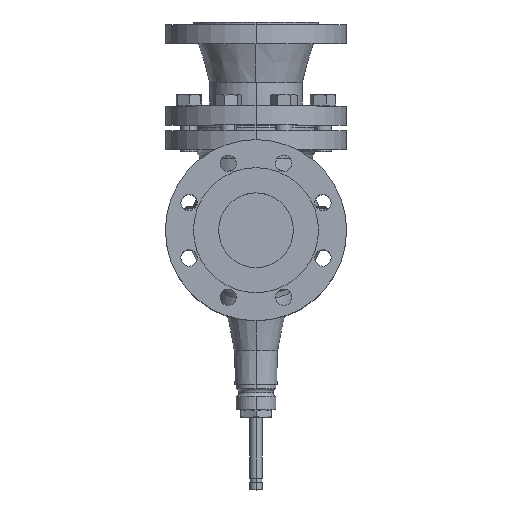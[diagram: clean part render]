
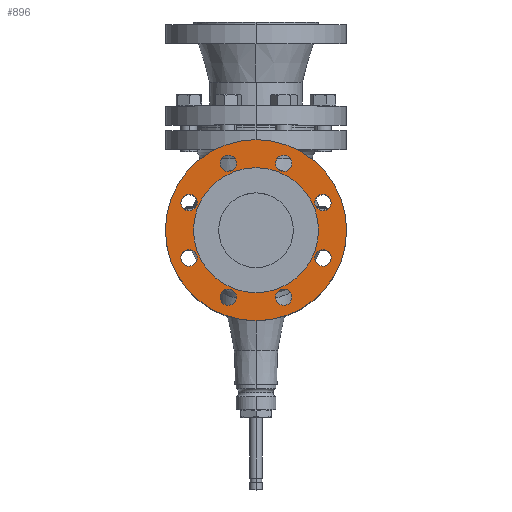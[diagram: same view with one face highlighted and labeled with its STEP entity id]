
A CAD part, top view. The second image highlights one B-rep face of the part: STEP entity #896.
In plain terms, the highlighted planar face has unit normal (0, 0, 1).
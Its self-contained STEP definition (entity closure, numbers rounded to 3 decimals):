
#72=CARTESIAN_POINT('',(0.,-100.,307.));
#73=VERTEX_POINT('',#72);
#89=CARTESIAN_POINT('',(0.,100.,307.));
#90=VERTEX_POINT('',#89);
#97=CARTESIAN_POINT('',(0.,0.,307.));
#98=DIRECTION('',(0.0,0.0,1.0));
#99=DIRECTION('',(0.0,-1.0,0.0));
#100=AXIS2_PLACEMENT_3D('',#97,#98,#99);
#101=CIRCLE('',#100,100.0);
#102=EDGE_CURVE('',#73,#90,#101,.T.);
#112=CARTESIAN_POINT('',(-34.059,-82.225,307.));
#113=VERTEX_POINT('',#112);
#122=CARTESIAN_POINT('',(-27.171,-65.595,307.));
#123=VERTEX_POINT('',#122);
#124=CARTESIAN_POINT('',(-30.615,-73.91,307.));
#125=DIRECTION('',(0.,0.,-1.));
#126=DIRECTION('',(-0.383,-0.924,0.));
#127=AXIS2_PLACEMENT_3D('',#124,#125,#126);
#128=CIRCLE('',#127,9.0);
#129=EDGE_CURVE('',#123,#113,#128,.T.);
#154=CARTESIAN_POINT('',(-82.225,-34.059,307.));
#155=VERTEX_POINT('',#154);
#164=CARTESIAN_POINT('',(-65.595,-27.171,307.));
#165=VERTEX_POINT('',#164);
#166=CARTESIAN_POINT('',(-73.91,-30.615,307.));
#167=DIRECTION('',(0.,0.,-1.));
#168=DIRECTION('',(-0.924,-0.383,0.));
#169=AXIS2_PLACEMENT_3D('',#166,#167,#168);
#170=CIRCLE('',#169,9.);
#171=EDGE_CURVE('',#165,#155,#170,.T.);
#196=CARTESIAN_POINT('',(-82.225,34.059,307.));
#197=VERTEX_POINT('',#196);
#206=CARTESIAN_POINT('',(-65.595,27.171,307.));
#207=VERTEX_POINT('',#206);
#208=CARTESIAN_POINT('',(-73.91,30.615,307.));
#209=DIRECTION('',(0.,0.,-1.));
#210=DIRECTION('',(-0.924,0.383,0.));
#211=AXIS2_PLACEMENT_3D('',#208,#209,#210);
#212=CIRCLE('',#211,9.0);
#213=EDGE_CURVE('',#207,#197,#212,.T.);
#238=CARTESIAN_POINT('',(-34.059,82.225,307.));
#239=VERTEX_POINT('',#238);
#248=CARTESIAN_POINT('',(-27.171,65.595,307.));
#249=VERTEX_POINT('',#248);
#250=CARTESIAN_POINT('',(-30.615,73.91,307.));
#251=DIRECTION('',(0.,0.,-1.0));
#252=DIRECTION('',(-0.383,0.924,0.));
#253=AXIS2_PLACEMENT_3D('',#250,#251,#252);
#254=CIRCLE('',#253,9.0);
#255=EDGE_CURVE('',#249,#239,#254,.T.);
#280=CARTESIAN_POINT('',(34.059,82.225,307.));
#281=VERTEX_POINT('',#280);
#290=CARTESIAN_POINT('',(27.171,65.595,307.));
#291=VERTEX_POINT('',#290);
#292=CARTESIAN_POINT('',(30.615,73.91,307.));
#293=DIRECTION('',(0.,0.,-1.));
#294=DIRECTION('',(0.383,0.924,0.));
#295=AXIS2_PLACEMENT_3D('',#292,#293,#294);
#296=CIRCLE('',#295,9.);
#297=EDGE_CURVE('',#291,#281,#296,.T.);
#322=CARTESIAN_POINT('',(82.225,34.059,307.));
#323=VERTEX_POINT('',#322);
#332=CARTESIAN_POINT('',(65.595,27.171,307.));
#333=VERTEX_POINT('',#332);
#334=CARTESIAN_POINT('',(73.91,30.615,307.));
#335=DIRECTION('',(0.,0.,-1.));
#336=DIRECTION('',(0.924,0.383,0.));
#337=AXIS2_PLACEMENT_3D('',#334,#335,#336);
#338=CIRCLE('',#337,9.);
#339=EDGE_CURVE('',#333,#323,#338,.T.);
#364=CARTESIAN_POINT('',(82.225,-34.059,307.));
#365=VERTEX_POINT('',#364);
#374=CARTESIAN_POINT('',(65.595,-27.171,307.));
#375=VERTEX_POINT('',#374);
#376=CARTESIAN_POINT('',(73.91,-30.615,307.));
#377=DIRECTION('',(0.,0.,-1.0));
#378=DIRECTION('',(0.924,-0.383,0.));
#379=AXIS2_PLACEMENT_3D('',#376,#377,#378);
#380=CIRCLE('',#379,9.);
#381=EDGE_CURVE('',#375,#365,#380,.T.);
#406=CARTESIAN_POINT('',(34.059,-82.225,307.));
#407=VERTEX_POINT('',#406);
#416=CARTESIAN_POINT('',(27.171,-65.595,307.));
#417=VERTEX_POINT('',#416);
#418=CARTESIAN_POINT('',(30.615,-73.91,307.));
#419=DIRECTION('',(0.,0.,-1.0));
#420=DIRECTION('',(0.383,-0.924,0.));
#421=AXIS2_PLACEMENT_3D('',#418,#419,#420);
#422=CIRCLE('',#421,9.0);
#423=EDGE_CURVE('',#417,#407,#422,.T.);
#448=CARTESIAN_POINT('',(0.,-69.,307.));
#449=VERTEX_POINT('',#448);
#458=CARTESIAN_POINT('',(0.,69.,307.));
#459=VERTEX_POINT('',#458);
#460=CARTESIAN_POINT('',(0.,0.,307.));
#461=DIRECTION('',(0.0,0.0,-1.0));
#462=DIRECTION('',(0.0,-1.0,0.0));
#463=AXIS2_PLACEMENT_3D('',#460,#461,#462);
#464=CIRCLE('',#463,69.0);
#465=EDGE_CURVE('',#459,#449,#464,.T.);
#565=CARTESIAN_POINT('',(0.,0.,307.));
#566=DIRECTION('',(0.0,0.0,-1.0));
#567=DIRECTION('',(0.0,-1.0,0.0));
#568=AXIS2_PLACEMENT_3D('',#565,#566,#567);
#569=CIRCLE('',#568,69.0);
#570=EDGE_CURVE('',#449,#459,#569,.T.);
#603=CARTESIAN_POINT('',(30.615,-73.91,307.));
#604=DIRECTION('',(0.,0.,-1.0));
#605=DIRECTION('',(0.383,-0.924,0.));
#606=AXIS2_PLACEMENT_3D('',#603,#604,#605);
#607=CIRCLE('',#606,9.0);
#608=EDGE_CURVE('',#407,#417,#607,.T.);
#627=CARTESIAN_POINT('',(73.91,-30.615,307.));
#628=DIRECTION('',(0.,0.,-1.0));
#629=DIRECTION('',(0.924,-0.383,0.));
#630=AXIS2_PLACEMENT_3D('',#627,#628,#629);
#631=CIRCLE('',#630,9.);
#632=EDGE_CURVE('',#365,#375,#631,.T.);
#651=CARTESIAN_POINT('',(73.91,30.615,307.));
#652=DIRECTION('',(0.,0.,-1.));
#653=DIRECTION('',(0.924,0.383,0.));
#654=AXIS2_PLACEMENT_3D('',#651,#652,#653);
#655=CIRCLE('',#654,9.);
#656=EDGE_CURVE('',#323,#333,#655,.T.);
#675=CARTESIAN_POINT('',(30.615,73.91,307.));
#676=DIRECTION('',(0.,0.,-1.));
#677=DIRECTION('',(0.383,0.924,0.));
#678=AXIS2_PLACEMENT_3D('',#675,#676,#677);
#679=CIRCLE('',#678,9.);
#680=EDGE_CURVE('',#281,#291,#679,.T.);
#699=CARTESIAN_POINT('',(-30.615,73.91,307.));
#700=DIRECTION('',(0.,0.,-1.0));
#701=DIRECTION('',(-0.383,0.924,0.));
#702=AXIS2_PLACEMENT_3D('',#699,#700,#701);
#703=CIRCLE('',#702,9.0);
#704=EDGE_CURVE('',#239,#249,#703,.T.);
#723=CARTESIAN_POINT('',(-73.91,30.615,307.));
#724=DIRECTION('',(0.,0.,-1.));
#725=DIRECTION('',(-0.924,0.383,0.));
#726=AXIS2_PLACEMENT_3D('',#723,#724,#725);
#727=CIRCLE('',#726,9.0);
#728=EDGE_CURVE('',#197,#207,#727,.T.);
#747=CARTESIAN_POINT('',(-73.91,-30.615,307.));
#748=DIRECTION('',(0.,0.,-1.));
#749=DIRECTION('',(-0.924,-0.383,0.));
#750=AXIS2_PLACEMENT_3D('',#747,#748,#749);
#751=CIRCLE('',#750,9.);
#752=EDGE_CURVE('',#155,#165,#751,.T.);
#771=CARTESIAN_POINT('',(-30.615,-73.91,307.));
#772=DIRECTION('',(0.,0.,-1.));
#773=DIRECTION('',(-0.383,-0.924,0.));
#774=AXIS2_PLACEMENT_3D('',#771,#772,#773);
#775=CIRCLE('',#774,9.0);
#776=EDGE_CURVE('',#113,#123,#775,.T.);
#787=CARTESIAN_POINT('',(0.,0.,307.));
#788=DIRECTION('',(0.0,0.0,1.0));
#789=DIRECTION('',(0.0,-1.0,0.0));
#790=AXIS2_PLACEMENT_3D('',#787,#788,#789);
#791=CIRCLE('',#790,100.0);
#792=EDGE_CURVE('',#90,#73,#791,.T.);
#851=CARTESIAN_POINT('',(0.,0.,307.));
#852=DIRECTION('',(0.0,0.0,1.0));
#853=DIRECTION('',(0.0,-1.0,0.0));
#854=AXIS2_PLACEMENT_3D('',#851,#852,#853);
#855=PLANE('',#854);
#856=ORIENTED_EDGE('',*,*,#102,.T.);
#857=ORIENTED_EDGE('',*,*,#792,.T.);
#858=EDGE_LOOP('',(#856,#857));
#859=FACE_OUTER_BOUND('',#858,.T.);
#860=ORIENTED_EDGE('',*,*,#570,.T.);
#861=ORIENTED_EDGE('',*,*,#465,.T.);
#862=EDGE_LOOP('',(#860,#861));
#863=FACE_BOUND('',#862,.T.);
#864=ORIENTED_EDGE('',*,*,#608,.T.);
#865=ORIENTED_EDGE('',*,*,#423,.T.);
#866=EDGE_LOOP('',(#864,#865));
#867=FACE_BOUND('',#866,.T.);
#868=ORIENTED_EDGE('',*,*,#632,.T.);
#869=ORIENTED_EDGE('',*,*,#381,.T.);
#870=EDGE_LOOP('',(#868,#869));
#871=FACE_BOUND('',#870,.T.);
#872=ORIENTED_EDGE('',*,*,#656,.T.);
#873=ORIENTED_EDGE('',*,*,#339,.T.);
#874=EDGE_LOOP('',(#872,#873));
#875=FACE_BOUND('',#874,.T.);
#876=ORIENTED_EDGE('',*,*,#680,.T.);
#877=ORIENTED_EDGE('',*,*,#297,.T.);
#878=EDGE_LOOP('',(#876,#877));
#879=FACE_BOUND('',#878,.T.);
#880=ORIENTED_EDGE('',*,*,#704,.T.);
#881=ORIENTED_EDGE('',*,*,#255,.T.);
#882=EDGE_LOOP('',(#880,#881));
#883=FACE_BOUND('',#882,.T.);
#884=ORIENTED_EDGE('',*,*,#728,.T.);
#885=ORIENTED_EDGE('',*,*,#213,.T.);
#886=EDGE_LOOP('',(#884,#885));
#887=FACE_BOUND('',#886,.T.);
#888=ORIENTED_EDGE('',*,*,#752,.T.);
#889=ORIENTED_EDGE('',*,*,#171,.T.);
#890=EDGE_LOOP('',(#888,#889));
#891=FACE_BOUND('',#890,.T.);
#892=ORIENTED_EDGE('',*,*,#776,.T.);
#893=ORIENTED_EDGE('',*,*,#129,.T.);
#894=EDGE_LOOP('',(#892,#893));
#895=FACE_BOUND('',#894,.T.);
#896=ADVANCED_FACE('',(#859,#863,#867,#871,#875,#879,#883,#887,#891,#895),#855,.T.);
